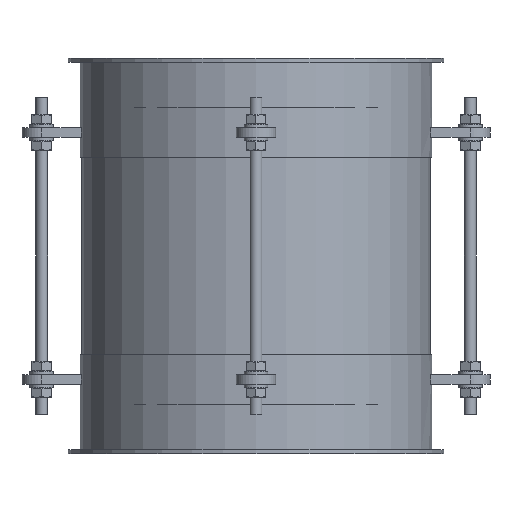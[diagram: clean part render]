
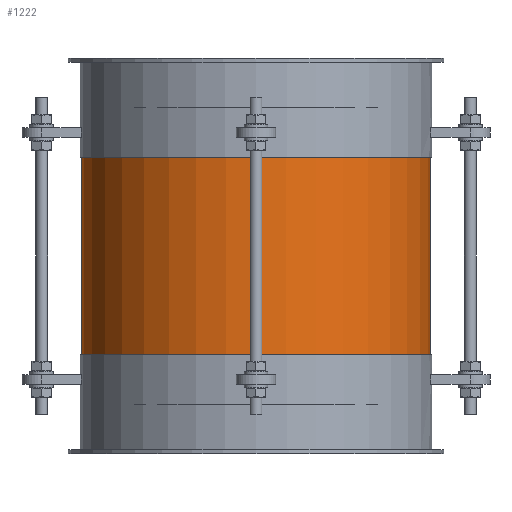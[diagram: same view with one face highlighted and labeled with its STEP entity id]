
A CAD part, front view. The second image highlights one B-rep face of the part: STEP entity #1222.
In plain terms, the highlighted cylindrical face has radius 88.25 mm (diameter 176.5 mm), a full revolution.
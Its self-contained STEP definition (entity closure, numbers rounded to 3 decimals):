
#1195=CARTESIAN_POINT('',(0.0,0.0,0.0));
#1196=DIRECTION('',(0.0,0.0,1.0));
#1197=DIRECTION('',(-1.0,0.0,0.0));
#1198=AXIS2_PLACEMENT_3D('',#1195,#1196,#1197);
#1199=CYLINDRICAL_SURFACE('',#1198,88.25);
#1200=CARTESIAN_POINT('',(88.25,0.,150.0));
#1201=VERTEX_POINT('',#1200);
#1202=CARTESIAN_POINT('',(0.0,0.0,150.0));
#1203=DIRECTION('',(0.0,0.0,-1.0));
#1204=DIRECTION('',(-1.0,0.0,0.0));
#1205=AXIS2_PLACEMENT_3D('',#1202,#1203,#1204);
#1206=CIRCLE('',#1205,88.25);
#1207=EDGE_CURVE('',#1201,#1201,#1206,.T.);
#1208=ORIENTED_EDGE('',*,*,#1207,.T.);
#1209=EDGE_LOOP('',(#1208));
#1210=FACE_OUTER_BOUND('',#1209,.T.);
#1211=CARTESIAN_POINT('',(88.25,0.,0.0));
#1212=VERTEX_POINT('',#1211);
#1213=CARTESIAN_POINT('',(0.0,0.0,0.0));
#1214=DIRECTION('',(0.0,0.0,-1.0));
#1215=DIRECTION('',(-1.0,0.0,0.0));
#1216=AXIS2_PLACEMENT_3D('',#1213,#1214,#1215);
#1217=CIRCLE('',#1216,88.25);
#1218=EDGE_CURVE('',#1212,#1212,#1217,.T.);
#1219=ORIENTED_EDGE('',*,*,#1218,.F.);
#1220=EDGE_LOOP('',(#1219));
#1221=FACE_BOUND('',#1220,.T.);
#1222=ADVANCED_FACE('',(#1210,#1221),#1199,.T.);
